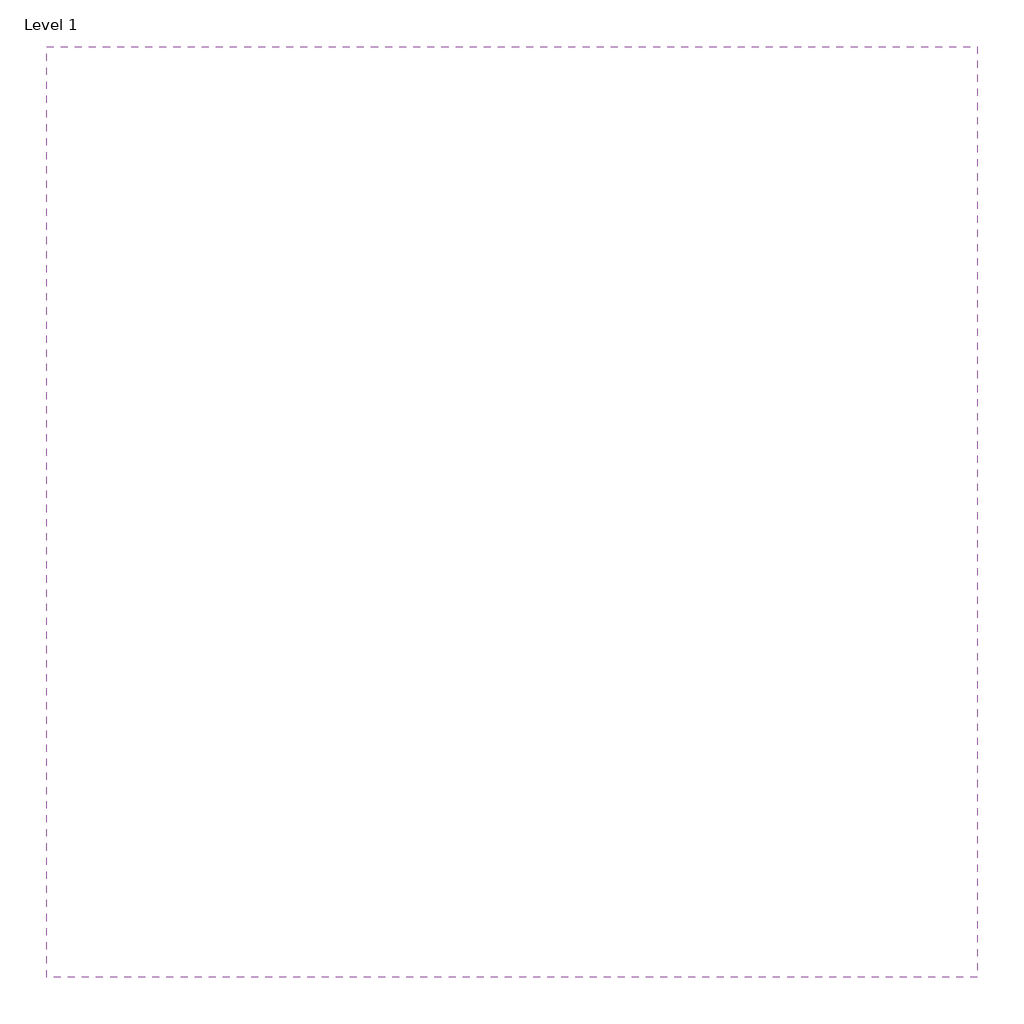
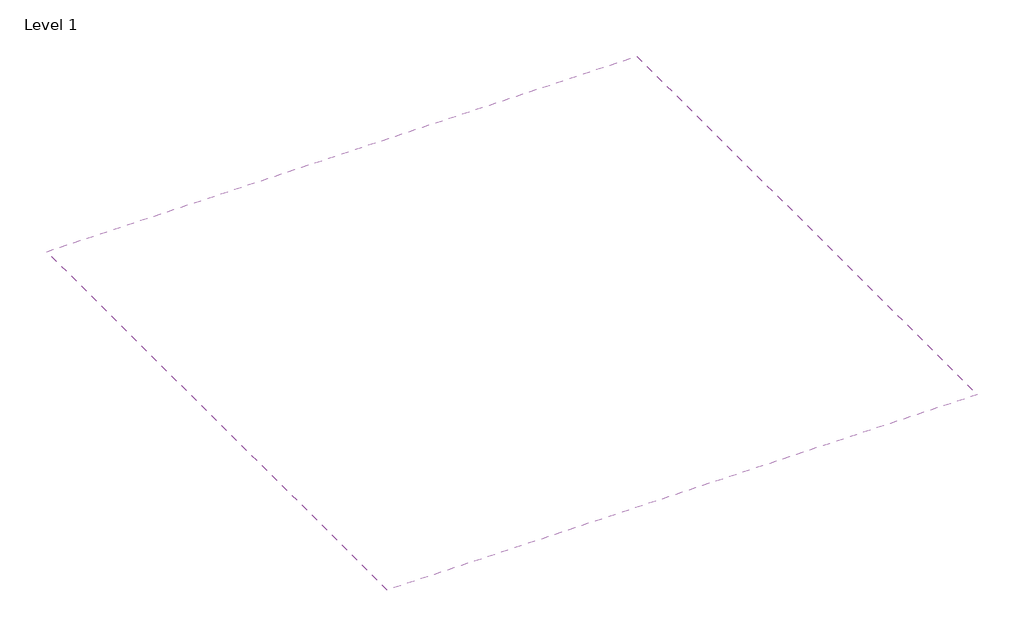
# One storey: 1 covering.
"""IFC4 building model written with IfcOpenShell, lengths in millimetres."""

import ifcopenshell
import ifcopenshell.guid

model = None  # the IFC model being written
_history = None  # IfcOwnerHistory: only IFC2X3 demands one
_inside = {}  # id of a spatial element -> (the spatial element, [elements in it])
_under = {}  # id of a project, library or spatial element -> (it, [spatial elements below it])
_declared = {}  # id of a project -> (the project, [libraries it declares])
_typed = {}  # id of a type object -> (the type object, [elements of that type])
_made_of = {}  # id of a material, layer set ... -> (it, [elements and type objects made of it])


def new_model(schema):
    """Start an empty IFC model of exactly this schema.

    Asked for "IFC4X3", IfcOpenShell would pick the latest addendum, in which some entities
    have other attributes; the version numbers below select the first issue.
    IFC2X3 requires an IfcOwnerHistory on every rooted entity: one is made here for all.
    """
    global model, _history
    if schema == "IFC4X3":
        model = ifcopenshell.file(schema_version=(4, 3, 0, 0))
    else:
        model = ifcopenshell.file(schema=schema)
    _inside.clear()
    _under.clear()
    _declared.clear()
    _typed.clear()
    _made_of.clear()
    _history = None
    if model.schema == "IFC2X3":
        org = make("IfcOrganization", Name="unknown")
        user = make(
            "IfcPersonAndOrganization",
            ThePerson=make("IfcPerson", FamilyName="unknown"),
            TheOrganization=org,
        )
        app = make(
            "IfcApplication",
            ApplicationDeveloper=org,
            Version="unknown",
            ApplicationFullName="unknown",
            ApplicationIdentifier="unknown",
        )
        _history = make(
            "IfcOwnerHistory",
            OwningUser=user,
            OwningApplication=app,
            ChangeAction="ADDED",
            CreationDate=0,
        )
    return model


def make(cls, **values):
    """One entity of the class cls with the attributes given. An attribute that is None is left unset."""
    return model.create_entity(
        cls, **{name: value for name, value in values.items() if value is not None}
    )


def rooted(cls, **values):
    """An entity with a GlobalId (a new one), such as an element, a storey or a relation."""
    return make(cls, GlobalId=ifcopenshell.guid.new(), OwnerHistory=_history, **values)


def si_unit(unit_type, name, prefix=None):
    """IfcSIUnit, for example si_unit("LENGTHUNIT", "METRE", prefix="MILLI")."""
    return make("IfcSIUnit", UnitType=unit_type, Prefix=prefix, Name=name)


def assignment(units):
    """IfcUnitAssignment: the units of a project."""
    return None if units is None else make("IfcUnitAssignment", Units=units)


def point(xyz):
    """IfcCartesianPoint."""
    return None if xyz is None else make("IfcCartesianPoint", Coordinates=xyz)


def direction(xyz):
    """IfcDirection."""
    return None if xyz is None else make("IfcDirection", DirectionRatios=xyz)


def frame(location, z_axis=None, x_axis=None):
    """IfcAxis2Placement3D, a coordinate frame: its origin and axes. An axis left out is left unset."""
    return make(
        "IfcAxis2Placement3D",
        Location=point(location),
        Axis=direction(z_axis),
        RefDirection=direction(x_axis),
    )


def origin():
    """The frame at (0, 0, 0) with its axes left unset."""
    return frame((0.0, 0.0, 0.0))


def place(relative_to, where):
    """IfcLocalPlacement: puts the frame where relative to a parent placement (None: the world)."""
    return make(
        "IfcLocalPlacement", PlacementRelTo=relative_to, RelativePlacement=where
    )


def context(
    kind, dimensions, precision=None, world=None, true_north=None, identifier=None
):
    """IfcGeometricRepresentationContext, for example the 3D "Model" context."""
    return make(
        "IfcGeometricRepresentationContext",
        ContextIdentifier=identifier,
        ContextType=kind,
        CoordinateSpaceDimension=dimensions,
        Precision=precision,
        WorldCoordinateSystem=world,
        TrueNorth=true_north,
    )


def project(units=None, contexts=None):
    """IfcProject with its units and contexts."""
    return rooted(
        "IfcProject",
        Name="project",
        RepresentationContexts=contexts,
        UnitsInContext=assignment(units),
    )


def spatial(cls, under=None, at=None, **own):
    """A site, building, storey or space (cls), placed at a placement, below another one or the project."""
    s = rooted(cls, ObjectPlacement=at, **own)
    if under is not None:
        _under.setdefault(under.id(), (under, []))[1].append(s)
    return s


def polyline(points):
    """IfcPolyline through the points."""
    return make("IfcPolyline", Points=[point(p) for p in points])


def outline(outer, holes=None, kind="AREA"):
    """IfcArbitraryClosedProfileDef: a profile drawn as a closed curve; with holes, ...WithVoids."""
    if holes is None:
        return make("IfcArbitraryClosedProfileDef", ProfileType=kind, OuterCurve=outer)
    return make(
        "IfcArbitraryProfileDefWithVoids",
        ProfileType=kind,
        OuterCurve=outer,
        InnerCurves=holes,
    )


def extrude(swept, where, along, depth):
    """IfcExtrudedAreaSolid: the profile swept, set in the frame where, extruded along a direction by depth."""
    return make(
        "IfcExtrudedAreaSolid",
        SweptArea=swept,
        Position=where,
        ExtrudedDirection=direction(along),
        Depth=depth,
    )


def shape(context_of_items, identifier, shape_type, items):
    """IfcShapeRepresentation: the items that make up one representation, for example the "Body"."""
    return make(
        "IfcShapeRepresentation",
        ContextOfItems=context_of_items,
        RepresentationIdentifier=identifier,
        RepresentationType=shape_type,
        Items=items,
    )


def made_of(thing, what):
    """Note that an element or type object is made of a material, layer set ...; save() writes the relation."""
    if what is not None:
        _made_of.setdefault(what.id(), (what, []))[1].append(thing)
    return thing


def element(
    cls,
    number,
    at=None,
    inside=None,
    cuts=None,
    type_object=None,
    material=None,
    context=None,
    identifier="Body",
    shape_type=None,
    held_by="IfcProductDefinitionShape",
    body=None,
    shapes=None,
    **own,
):
    """One element of the class cls, such as IfcWall. Its Tag is "e" and its number.

    at: its placement. inside: the storey or other place that contains it. cuts: it is an
    opening in that element (IfcRelVoidsElement). A single representation is given by context,
    identifier, shape_type and body (its items); several are given by shapes. held_by: the class
    of the entity that holds the representations. save() writes the other relations.
    """
    e = rooted(cls, Tag="e%d" % number, ObjectPlacement=at, **own)
    if body is not None:
        shapes = [shape(context, identifier, shape_type, body)]
    if shapes is not None:
        e.Representation = make(held_by, Representations=shapes)
    if inside is not None:
        _inside.setdefault(inside.id(), (inside, []))[1].append(e)
    if cuts is not None:
        rooted(
            "IfcRelVoidsElement", RelatingBuildingElement=cuts, RelatedOpeningElement=e
        )
    if type_object is not None:
        _typed.setdefault(type_object.id(), (type_object, []))[1].append(e)
    return made_of(e, material)


def aggregate(whole, parts):
    """IfcRelAggregates: a whole, such as a stair, and the parts it consists of."""
    return rooted("IfcRelAggregates", RelatingObject=whole, RelatedObjects=parts)


def save(model, path):
    """Write the relations noted so far, then the file.

    IfcRelAggregates (storeys below a building ...), IfcRelContainedInSpatialStructure (elements
    in a storey), IfcRelDefinesByType, IfcRelAssociatesMaterial and IfcRelDeclares: one each for
    every whole, place, type object, material and project.
    """
    for whole, parts in _under.values():
        aggregate(whole, parts)
    for where, things in _inside.values():
        rooted(
            "IfcRelContainedInSpatialStructure",
            RelatedElements=things,
            RelatingStructure=where,
        )
    for kind, things in _typed.values():
        rooted("IfcRelDefinesByType", RelatedObjects=things, RelatingType=kind)
    for what, things in _made_of.values():
        rooted("IfcRelAssociatesMaterial", RelatedObjects=things, RelatingMaterial=what)
    for by, libraries in _declared.values():
        rooted("IfcRelDeclares", RelatingContext=by, RelatedDefinitions=libraries)
    model.write(path)


model = new_model("IFC4")

# Units and contexts
model_context = context("Model", 3, world=origin())
ifc_project = project(units=[si_unit("LENGTHUNIT", "METRE", prefix="MILLI")], contexts=[model_context])

# Site, building, storey
site = spatial("IfcSite", under=ifc_project)
building = spatial("IfcBuilding", under=site)
storey = spatial("IfcBuildingStorey", under=building, Name="Level 1", Elevation=0.0)

# Covering
placement = place(None, origin())
element("IfcCovering", 1, ObjectType="NBS_ArmstrongCeilingsLtd_UnitModularSuspendedCeilingSystem_DunedBBoard-Prelude24Exposed_1200x600x19mm_GB", at=placement, inside=storey, context=model_context, shape_type="SweptSolid", body=[
    extrude(outline(polyline([(2400.0, 2600.0), (2400.0, 100.0), (-100.0, 100.0), (-100.0, 2600.0), (2400.0, 2600.0)])), frame((0.0, 0.0, 2600.0), z_axis=(0.0, 0.0, 1.0), x_axis=(1.0, 0.0, 0.0)), (0.0, 0.0, 1.0), 43.0),
])

save(model, "model.ifc")
